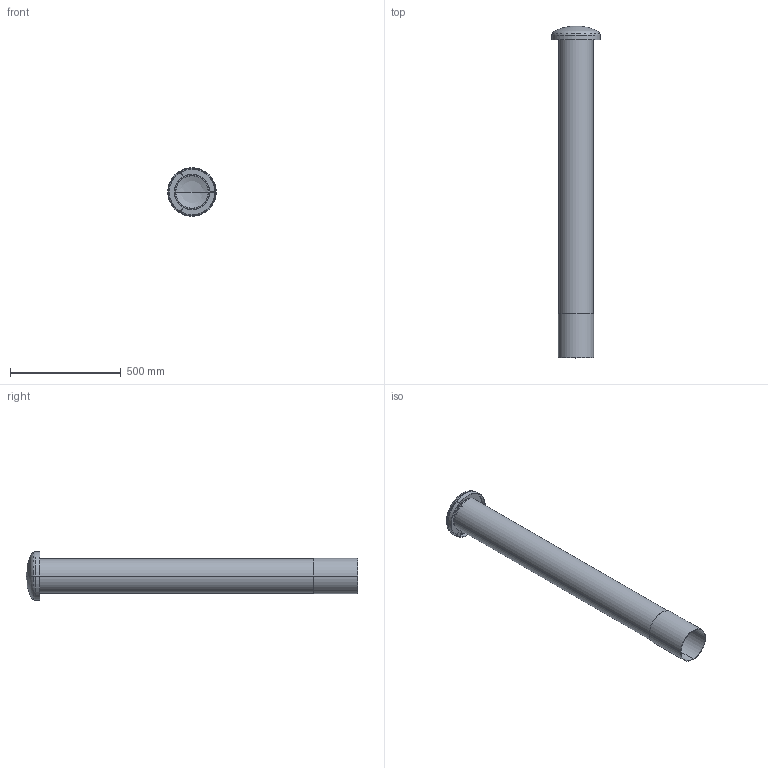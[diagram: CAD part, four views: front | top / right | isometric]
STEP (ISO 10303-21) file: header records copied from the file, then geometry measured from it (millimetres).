
FILE_DESCRIPTION((''),'2;1');
FILE_NAME('52147583','2023-10-31T09:12:18',('ged'),('HUBER SE'),'CREO PARAMETRIC BY PTC INC, 2022162','CREO PARAMETRIC BY PTC INC, 2022162','');
FILE_SCHEMA(('AUTOMOTIVE_DESIGN { 1 0 10303 214 1 1 1 1 }'));
Length unit declared in the file: millimetre
Products named in the file (1): 52147583
Bounding box: 219 x 1500.43 x 219 mm (x, y, z)
Volume: 1264737.9 mm3; surface area: 1581974.3 mm2
Topology: 2 solids, 2 shells, 86 faces, 198 edges, 118 vertices
Faces by surface type: plane 32, cylinder 30, torus 16, cone 4, sphere 4
Entity records: 3024 total; most frequent: DIRECTION 474, CARTESIAN_POINT 400, ORIENTED_EDGE 388, AXIS2_PLACEMENT_3D 194, EDGE_CURVE 194, VERTEX_POINT 118, CIRCLE 108, COLOUR_RGB 106
